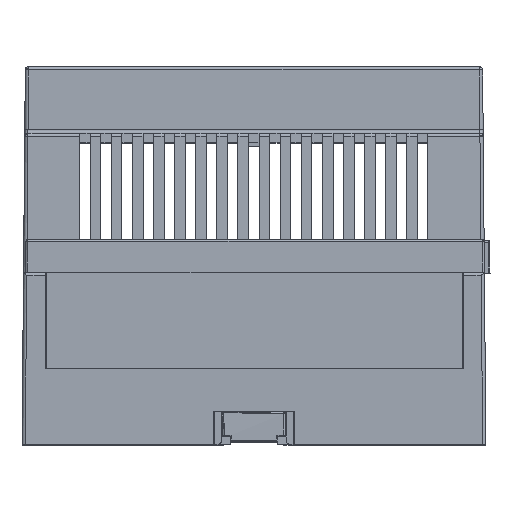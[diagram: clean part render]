
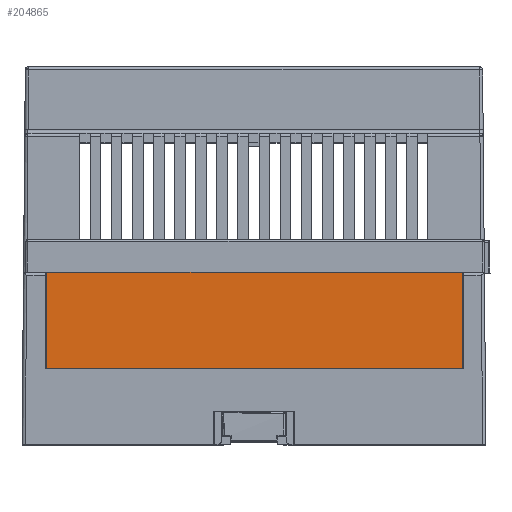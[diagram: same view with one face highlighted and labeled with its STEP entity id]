
A CAD part, top view. The second image highlights one B-rep face of the part: STEP entity #204865.
In plain terms, the highlighted planar face has unit normal (0, 0, 1).
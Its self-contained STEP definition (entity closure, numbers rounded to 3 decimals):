
#204865 = ADVANCED_FACE('',(#204866),#204880,.T.);
#204866 = FACE_BOUND('',#204867,.T.);
#204867 = EDGE_LOOP('',(#204868,#204903,#204931,#204959));
#204868 = ORIENTED_EDGE('',*,*,#204869,.T.);
#204869 = EDGE_CURVE('',#204870,#204872,#204874,.T.);
#204870 = VERTEX_POINT('',#204871);
#204871 = CARTESIAN_POINT('',(-3.48,26.4,-16.701));
#204872 = VERTEX_POINT('',#204873);
#204873 = CARTESIAN_POINT('',(-67.38,26.4,-16.701));
#204874 = SURFACE_CURVE('',#204875,(#204879,#204891),.PCURVE_S1.);
#204875 = LINE('',#204876,#204877);
#204876 = CARTESIAN_POINT('',(-67.38,26.4,-16.701));
#204877 = VECTOR('',#204878,1.);
#204878 = DIRECTION('',(-1.,0.,0.));
#204879 = PCURVE('',#204880,#204885);
#204880 = PLANE('',#204881);
#204881 = AXIS2_PLACEMENT_3D('',#204882,#204883,#204884);
#204882 = CARTESIAN_POINT('',(-67.38,26.4,-16.701));
#204883 = DIRECTION('',(0.,0.,1.));
#204884 = DIRECTION('',(0.,-1.,0.));
#204885 = DEFINITIONAL_REPRESENTATION('',(#204886),#204890);
#204886 = LINE('',#204887,#204888);
#204887 = CARTESIAN_POINT('',(0.,0.));
#204888 = VECTOR('',#204889,1.);
#204889 = DIRECTION('',(0.,-1.));
#204890 = ( GEOMETRIC_REPRESENTATION_CONTEXT(2) 
PARAMETRIC_REPRESENTATION_CONTEXT() REPRESENTATION_CONTEXT('2D SPACE',''
  ) );
#204891 = PCURVE('',#204892,#204897);
#204892 = PLANE('',#204893);
#204893 = AXIS2_PLACEMENT_3D('',#204894,#204895,#204896);
#204894 = CARTESIAN_POINT('',(-0.23,26.4,-16.701));
#204895 = DIRECTION('',(0.,0.009,
    1.));
#204896 = DIRECTION('',(0.,-1.,
    0.009));
#204897 = DEFINITIONAL_REPRESENTATION('',(#204898),#204902);
#204898 = LINE('',#204899,#204900);
#204899 = CARTESIAN_POINT('',(0.,-67.15));
#204900 = VECTOR('',#204901,1.);
#204901 = DIRECTION('',(0.,-1.));
#204902 = ( GEOMETRIC_REPRESENTATION_CONTEXT(2) 
PARAMETRIC_REPRESENTATION_CONTEXT() REPRESENTATION_CONTEXT('2D SPACE',''
  ) );
#204903 = ORIENTED_EDGE('',*,*,#204904,.T.);
#204904 = EDGE_CURVE('',#204872,#204905,#204907,.T.);
#204905 = VERTEX_POINT('',#204906);
#204906 = CARTESIAN_POINT('',(-67.38,11.6,-16.701));
#204907 = SURFACE_CURVE('',#204908,(#204912,#204919),.PCURVE_S1.);
#204908 = LINE('',#204909,#204910);
#204909 = CARTESIAN_POINT('',(-67.38,26.4,-16.701));
#204910 = VECTOR('',#204911,1.);
#204911 = DIRECTION('',(0.,-1.,0.));
#204912 = PCURVE('',#204880,#204913);
#204913 = DEFINITIONAL_REPRESENTATION('',(#204914),#204918);
#204914 = LINE('',#204915,#204916);
#204915 = CARTESIAN_POINT('',(0.,0.));
#204916 = VECTOR('',#204917,1.);
#204917 = DIRECTION('',(1.,0.));
#204918 = ( GEOMETRIC_REPRESENTATION_CONTEXT(2) 
PARAMETRIC_REPRESENTATION_CONTEXT() REPRESENTATION_CONTEXT('2D SPACE',''
  ) );
#204919 = PCURVE('',#204920,#204925);
#204920 = PLANE('',#204921);
#204921 = AXIS2_PLACEMENT_3D('',#204922,#204923,#204924);
#204922 = CARTESIAN_POINT('',(-67.38,26.4,-18.201));
#204923 = DIRECTION('',(-1.,0.,0.));
#204924 = DIRECTION('',(0.,0.,1.));
#204925 = DEFINITIONAL_REPRESENTATION('',(#204926),#204930);
#204926 = LINE('',#204927,#204928);
#204927 = CARTESIAN_POINT('',(1.5,0.));
#204928 = VECTOR('',#204929,1.);
#204929 = DIRECTION('',(0.,-1.));
#204930 = ( GEOMETRIC_REPRESENTATION_CONTEXT(2) 
PARAMETRIC_REPRESENTATION_CONTEXT() REPRESENTATION_CONTEXT('2D SPACE',''
  ) );
#204931 = ORIENTED_EDGE('',*,*,#204932,.T.);
#204932 = EDGE_CURVE('',#204905,#204933,#204935,.T.);
#204933 = VERTEX_POINT('',#204934);
#204934 = CARTESIAN_POINT('',(-3.48,11.6,-16.701));
#204935 = SURFACE_CURVE('',#204936,(#204940,#204947),.PCURVE_S1.);
#204936 = LINE('',#204937,#204938);
#204937 = CARTESIAN_POINT('',(-67.38,11.6,-16.701));
#204938 = VECTOR('',#204939,1.);
#204939 = DIRECTION('',(1.,0.,0.));
#204940 = PCURVE('',#204880,#204941);
#204941 = DEFINITIONAL_REPRESENTATION('',(#204942),#204946);
#204942 = LINE('',#204943,#204944);
#204943 = CARTESIAN_POINT('',(14.8,0.));
#204944 = VECTOR('',#204945,1.);
#204945 = DIRECTION('',(0.,1.));
#204946 = ( GEOMETRIC_REPRESENTATION_CONTEXT(2) 
PARAMETRIC_REPRESENTATION_CONTEXT() REPRESENTATION_CONTEXT('2D SPACE',''
  ) );
#204947 = PCURVE('',#204948,#204953);
#204948 = PLANE('',#204949);
#204949 = AXIS2_PLACEMENT_3D('',#204950,#204951,#204952);
#204950 = CARTESIAN_POINT('',(-35.43,11.6,-17.451));
#204951 = DIRECTION('',(0.,1.,0.));
#204952 = DIRECTION('',(0.,0.,1.));
#204953 = DEFINITIONAL_REPRESENTATION('',(#204954),#204958);
#204954 = LINE('',#204955,#204956);
#204955 = CARTESIAN_POINT('',(0.75,-31.95));
#204956 = VECTOR('',#204957,1.);
#204957 = DIRECTION('',(0.,1.));
#204958 = ( GEOMETRIC_REPRESENTATION_CONTEXT(2) 
PARAMETRIC_REPRESENTATION_CONTEXT() REPRESENTATION_CONTEXT('2D SPACE',''
  ) );
#204959 = ORIENTED_EDGE('',*,*,#204960,.T.);
#204960 = EDGE_CURVE('',#204933,#204870,#204961,.T.);
#204961 = SURFACE_CURVE('',#204962,(#204966,#204973),.PCURVE_S1.);
#204962 = LINE('',#204963,#204964);
#204963 = CARTESIAN_POINT('',(-3.48,26.4,-16.701));
#204964 = VECTOR('',#204965,1.);
#204965 = DIRECTION('',(0.,1.,0.));
#204966 = PCURVE('',#204880,#204967);
#204967 = DEFINITIONAL_REPRESENTATION('',(#204968),#204972);
#204968 = LINE('',#204969,#204970);
#204969 = CARTESIAN_POINT('',(0.,63.9));
#204970 = VECTOR('',#204971,1.);
#204971 = DIRECTION('',(-1.,0.));
#204972 = ( GEOMETRIC_REPRESENTATION_CONTEXT(2) 
PARAMETRIC_REPRESENTATION_CONTEXT() REPRESENTATION_CONTEXT('2D SPACE',''
  ) );
#204973 = PCURVE('',#204974,#204979);
#204974 = PLANE('',#204975);
#204975 = AXIS2_PLACEMENT_3D('',#204976,#204977,#204978);
#204976 = CARTESIAN_POINT('',(-3.48,26.4,-16.701));
#204977 = DIRECTION('',(1.,0.,0.));
#204978 = DIRECTION('',(0.,0.,-1.));
#204979 = DEFINITIONAL_REPRESENTATION('',(#204980),#204984);
#204980 = LINE('',#204981,#204982);
#204981 = CARTESIAN_POINT('',(0.,0.));
#204982 = VECTOR('',#204983,1.);
#204983 = DIRECTION('',(0.,1.));
#204984 = ( GEOMETRIC_REPRESENTATION_CONTEXT(2) 
PARAMETRIC_REPRESENTATION_CONTEXT() REPRESENTATION_CONTEXT('2D SPACE',''
  ) );
